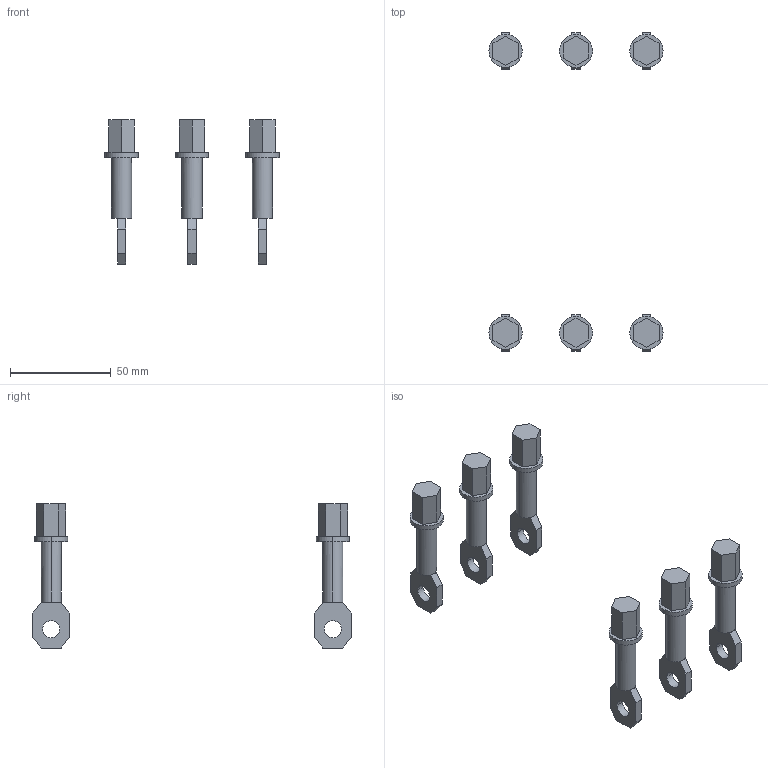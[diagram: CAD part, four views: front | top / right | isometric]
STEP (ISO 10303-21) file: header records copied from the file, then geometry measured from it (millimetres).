
FILE_DESCRIPTION (( 'STEP AP214' ), '1' );
FILE_NAME ('ÊÇÏ OptiMat D100, D160, D250 6 øò êîðîòêèå âåðòèêàëüíûå.STEP', '2023-04-28T07:34:26', ( '' ), ( '' ), 'SwSTEP 2.0', 'SolidWorks 2018', '' );
FILE_SCHEMA (( 'AUTOMOTIVE_DESIGN' ));
Length unit declared in the file: millimetre
Products named in the file (1): ÊÇÏ OptiMat D100, D160, D250 6 øò êîðîòêèå âåðòèêàëüíûå
Bounding box: 86.5 x 158 x 71.7 mm (x, y, z)
Volume: 38275.6 mm3; surface area: 18888.3 mm2
Topology: 6 solids, 6 shells, 180 faces, 432 edges, 276 vertices
Faces by surface type: plane 144, cylinder 36
Entity records: 7259 total; most frequent: DIRECTION 902, CARTESIAN_POINT 889, ORIENTED_EDGE 864, EDGE_CURVE 432, VECTOR 324, LINE 324, AXIS2_PLACEMENT_3D 289, VERTEX_POINT 276
